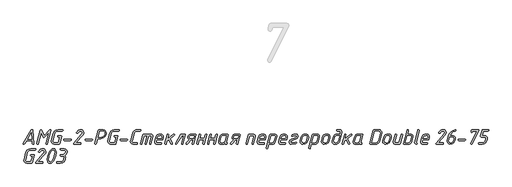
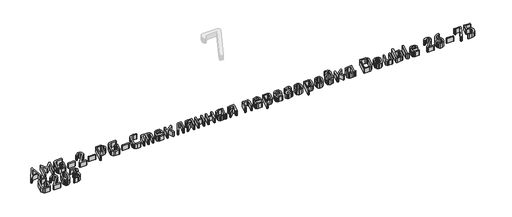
# One storey, part 16 of 22: 1 proxy.
"""IFC4 building model written with IfcOpenShell, lengths in millimetres."""

from ifc_helpers import new_model, si_unit, origin, origin_with_axes, place, context, project, spatial, polyline, outline, extrude, element, save

model = new_model("IFC4")

# Units and contexts
model_context = context("Model", 3, world=origin())
ifc_project = project(units=[si_unit("LENGTHUNIT", "METRE", prefix="MILLI")], contexts=[model_context])

# Site, building, storey
site = spatial("IfcSite", under=ifc_project)
building = spatial("IfcBuilding", under=site)
storey = spatial("IfcBuildingStorey", under=building, Name="Уровень 1", Elevation=0.0)

# Proxy
placement = place(None, origin())
element("IfcBuildingElementProxy", 1, Name="30", ObjectType="30", at=placement, inside=storey, context=model_context, shape_type="SweptSolid", body=[
    extrude(outline(polyline([(-27254.4219264, -25695.2113625), (-27310.5539274, -25695.2113625), (-27331.3287604, -25729.8494015), (-27337.7210168, -25733.5649005), (-27343.0345798, -25731.3276108), (-27345.1919664, -25726.0140477), (-27344.0733215, -25722.0188875), (-27261.4534084, -25586.2633437), (-27254.9812489, -25582.7076511), (-27249.6277342, -25584.4455458), (-27247.4703477, -25589.6592298), (-27237.0429795, -25726.2537573), (-27238.9406806, -25731.7371147), (-27244.6337839, -25733.5649005), (-27249.9573349, -25731.7970421), (-27252.0248303, -25726.493467), (-27254.4219264, -25695.2113625)]), holes=[polyline([(-27255.5405713, -25679.8699473), (-27260.6543764, -25613.3904815), (-27301.3251073, -25679.8699473), (-27255.5405713, -25679.8699473)])]), origin_with_axes(), (0.0, 0.0, 1.0), 50.0),
    extrude(outline(polyline([(-27159.3371135, -25613.3505299), (-27189.9000891, -25727.9716762), (-27192.4370158, -25732.1665945), (-27197.0913775, -25733.5649005), (-27202.3649889, -25731.3276108), (-27204.6821818, -25726.2537573), (-27204.362569, -25723.976516), (-27168.0865143, -25588.3008754), (-27165.5595755, -25584.1059572), (-27160.9351776, -25582.7076511), (-27153.9036956, -25587.2621337), (-27129.8128796, -25644.5527311), (-27073.0816046, -25585.1047472), (-27067.7680415, -25582.7076511), (-27062.1348656, -25584.5654006), (-27060.2571403, -25590.1386491), (-27060.49685, -25592.2960356), (-27096.732953, -25727.9716762), (-27099.3198193, -25732.1665945), (-27103.8842898, -25733.5649005), (-27109.1778771, -25731.3276108), (-27111.5150458, -25726.2537573), (-27111.1554814, -25723.976516), (-27082.5101827, -25616.6665129), (-27127.0961706, -25663.1701777), (-27132.4097337, -25665.4074674), (-27139.2414576, -25660.8929364), (-27159.3371135, -25613.3505299)])), origin_with_axes(), (0.0, 0.0, 1.0), 50.0),
    extrude(outline(polyline([(-26942.6795754, -25598.0490663), (-26991.3406268, -25598.0490663), (-27004.0052846, -25600.8356905), (-27014.512556, -25609.1955633), (-27020.5452479, -25620.5817699), (-27040.7607585, -25695.6907818), (-27041.5597906, -25701.2840061), (-27036.3860581, -25713.5491479), (-27023.5016664, -25718.2234853), (-26984.6287576, -25718.2234853), (-26968.4883104, -25659.4147271), (-26982.2316615, -25659.4147271), (-26987.8648374, -25657.4970502), (-26989.7425627, -25651.7440195), (-26987.8648374, -25645.9909888), (-26982.2316615, -25644.0733119), (-26956.782491, -25644.0733119), (-26952.3478631, -25645.4316663), (-26950.8696539, -25649.5067298), (-26950.9895087, -25651.5442615), (-26971.1251161, -25726.0939509), (-26974.6108934, -25731.6971631), (-26980.9931618, -25733.5649005), (-27027.5767298, -25733.5649005), (-27041.7995002, -25729.4199218), (-27052.8261424, -25716.9849857), (-27057.0210606, -25702.1229897), (-27056.2220285, -25695.8505882), (-27036.1263727, -25620.4219634), (-27026.1784238, -25599.6471304), (-27009.5186057, -25586.9425209), (-26987.2256117, -25582.7076511), (-26942.6795754, -25582.7076511), (-26937.0763632, -25584.625328), (-26935.2086258, -25590.3783587), (-26937.0763632, -25596.1313894), (-26942.6795754, -25598.0490663)])), origin_with_axes(), (0.0, 0.0, 1.0), 50.0),
    extrude(outline(polyline([(-26858.9809691, -25695.2113625), (-26921.0657587, -25695.2113625), (-26926.6689709, -25693.2936856), (-26928.5367083, -25687.5406549), (-26926.6689709, -25681.7876242), (-26921.0657587, -25679.8699473), (-26858.9809691, -25679.8699473), (-26853.3777569, -25681.7876242), (-26851.5100195, -25687.5406549), (-26853.3777569, -25693.2936856), (-26858.9809691, -25695.2113625)])), origin_with_axes(), (0.0, 0.0, 1.0), 50.0),
    extrude(outline(polyline([(-26784.9106988, -25617.8251093), (-26790.4639715, -25620.5418183), (-26795.7575588, -25618.2645769), (-26797.9748727, -25613.0309171), (-26796.137099, -25608.1568216), (-26776.8404752, -25589.5793266), (-26764.8749704, -25584.42557), (-26751.2714499, -25582.7076511), (-26736.3295507, -25586.3532348), (-26725.4627149, -25597.2899858), (-26721.2677967, -25612.4715946), (-26724.6936466, -25627.7430945), (-26734.9711962, -25642.7149574), (-26803.5281454, -25718.2234853), (-26758.5426415, -25718.2234853), (-26752.9094656, -25720.1411622), (-26751.0317403, -25725.8941929), (-26752.9094656, -25731.6472236), (-26758.5426415, -25733.5649005), (-26820.5874795, -25733.5649005), (-26826.1906917, -25731.6871752), (-26828.0584291, -25726.0539993), (-26826.1407522, -25720.9002427), (-26745.7980804, -25632.4873473), (-26738.906429, -25622.5693621), (-26736.6092119, -25613.1108203), (-26741.2935373, -25601.8145048), (-26755.3465133, -25598.0490663), (-26764.8050551, -25600.6359325), (-26775.9215884, -25608.3965312), (-26784.9106988, -25617.8251093)])), origin_with_axes(), (0.0, 0.0, 1.0), 50.0),
    extrude(outline(polyline([(-26639.0873512, -25695.2113625), (-26701.1721409, -25695.2113625), (-26706.7753531, -25693.2936856), (-26708.6430905, -25687.5406549), (-26706.7753531, -25681.7876242), (-26701.1721409, -25679.8699473), (-26639.0873512, -25679.8699473), (-26633.4841391, -25681.7876242), (-26631.6164017, -25687.5406549), (-26633.4841391, -25693.2936856), (-26639.0873512, -25695.2113625)])), origin_with_axes(), (0.0, 0.0, 1.0), 50.0),
    extrude(outline(polyline([(-26548.4771177, -25674.7561423), (-26579.5195126, -25674.7561423), (-26594.1417989, -25728.091531), (-26596.738653, -25732.1965582), (-26601.3330873, -25733.5649005), (-26606.6066988, -25731.3276108), (-26608.9238917, -25726.2537573), (-26608.6042789, -25723.976516), (-26572.9274982, -25590.2585039), (-26569.4716846, -25584.5953643), (-26563.0195009, -25582.7076511), (-26524.1465921, -25582.7076511), (-26507.0173427, -25587.731565), (-26493.8233261, -25602.8033069), (-26488.8293758, -25621.1810439), (-26489.7083111, -25628.7318967), (-26501.7437312, -25653.3620594), (-26522.1090604, -25669.162918), (-26548.4771177, -25674.7561423)]), holes=[polyline([(-26544.4020543, -25659.4147271), (-26527.9519822, -25655.5194459), (-26513.5993691, -25643.8336023), (-26506.6178267, -25632.7769964), (-26504.2906458, -25621.1810439), (-26507.2370765, -25609.3653576), (-26516.0763685, -25601.085388), (-26528.3814619, -25598.0490663), (-26559.3839051, -25598.0490663), (-26575.5243523, -25659.4147271), (-26544.4020543, -25659.4147271)])]), origin_with_axes(), (0.0, 0.0, 1.0), 50.0),
    extrude(outline(polyline([(-26362.2627005, -25598.0490663), (-26410.9237518, -25598.0490663), (-26423.5884096, -25600.8356905), (-26434.095681, -25609.1955633), (-26440.1283729, -25620.5817699), (-26460.3438836, -25695.6907818), (-26461.1429156, -25701.2840061), (-26455.9691831, -25713.5491479), (-26443.0847915, -25718.2234853), (-26404.2118826, -25718.2234853), (-26388.0714354, -25659.4147271), (-26401.8147865, -25659.4147271), (-26407.4479624, -25657.4970502), (-26409.3256877, -25651.7440195), (-26407.4479624, -25645.9909888), (-26401.8147865, -25644.0733119), (-26376.365616, -25644.0733119), (-26371.9309882, -25645.4316663), (-26370.4527789, -25649.5067298), (-26370.5726337, -25651.5442615), (-26390.7082411, -25726.0939509), (-26394.1940184, -25731.6971631), (-26400.5762868, -25733.5649005), (-26447.1598549, -25733.5649005), (-26461.3826252, -25729.4199218), (-26472.4092674, -25716.9849857), (-26476.6041856, -25702.1229897), (-26475.8051536, -25695.8505882), (-26455.7094977, -25620.4219634), (-26445.7615488, -25599.6471304), (-26429.1017307, -25586.9425209), (-26406.8087368, -25582.7076511), (-26362.2627005, -25582.7076511), (-26356.6594883, -25584.625328), (-26354.7917509, -25590.3783587), (-26356.6594883, -25596.1313894), (-26362.2627005, -25598.0490663)])), origin_with_axes(), (0.0, 0.0, 1.0), 50.0),
    extrude(outline(polyline([(-26278.5640941, -25695.2113625), (-26340.6488837, -25695.2113625), (-26346.2520959, -25693.2936856), (-26348.1198333, -25687.5406549), (-26346.2520959, -25681.7876242), (-26340.6488837, -25679.8699473), (-26278.5640941, -25679.8699473), (-26272.9608819, -25681.7876242), (-26271.0931445, -25687.5406549), (-26272.9608819, -25693.2936856), (-26278.5640941, -25695.2113625)])), origin_with_axes(), (0.0, 0.0, 1.0), 50.0),
    extrude(outline(polyline([(-26114.0433968, -25634.4050242), (-26111.4864942, -25630.1501786), (-26106.7722052, -25628.7318967), (-26034.8193698, -25628.7318967), (-26022.5941796, -25631.7382547), (-26014.12444, -25640.7573289), (-26011.0881182, -25652.6629063), (-26011.8871502, -25658.6955982), (-26030.5045968, -25728.0116278), (-26033.091463, -25732.1765824), (-26037.6559336, -25733.5649005), (-26042.9495209, -25731.3675624), (-26045.2866896, -25726.3336606), (-26044.9271252, -25724.0564192), (-26027.4283234, -25658.9752595), (-26026.6292914, -25653.4619384), (-26029.6756011, -25646.4204685), (-26038.81453, -25644.0733119), (-26054.3557032, -25644.0733119), (-26077.0881648, -25728.0116278), (-26079.6750311, -25732.1765824), (-26084.2395016, -25733.5649005), (-26089.5330889, -25731.3675624), (-26091.8702576, -25726.3336606), (-26091.5506448, -25724.0564192), (-26069.8169733, -25644.0733119), (-26100.9792229, -25644.0733119), (-26123.6717329, -25728.0116278), (-26126.268587, -25732.1765824), (-26130.8630212, -25733.5649005), (-26136.1366327, -25731.3475866), (-26138.4538256, -25726.293709), (-26138.1342128, -25724.0164676), (-26114.0433968, -25634.4050242)])), origin_with_axes(), (0.0, 0.0, 1.0), 50.0),
    extrude(outline(polyline([(-26178.7649921, -25718.2234853), (-26173.1318162, -25720.1411622), (-26171.2540909, -25725.8941929), (-26173.1318162, -25731.6472236), (-26178.7649921, -25733.5649005), (-26211.804967, -25733.5649005), (-26226.1575801, -25729.3899581), (-26237.1742344, -25716.8651309), (-26241.2492978, -25701.9232317), (-26240.4502657, -25695.8505882), (-26220.4744647, -25620.4219634), (-26213.6527286, -25603.9219518), (-26203.2153726, -25592.1362292), (-26189.1623966, -25585.0647956), (-26171.4938005, -25582.7076511), (-26142.6087922, -25582.7076511), (-26136.9756163, -25584.625328), (-26135.097891, -25590.3783587), (-26136.9756163, -25596.1313894), (-26142.6087922, -25598.0490663), (-26175.568864, -25598.0490663), (-26188.113667, -25600.8356905), (-26198.7407932, -25609.1955633), (-26204.8933399, -25620.5817699), (-26224.9889957, -25695.6907818), (-26225.7880278, -25701.2840061), (-26220.6142953, -25713.5491479), (-26207.7299036, -25718.2234853), (-26178.7649921, -25718.2234853)])), origin_with_axes(), (0.0, 0.0, 1.0), 50.0),
    extrude(outline(polyline([(-25904.2974858, -25665.4873706), (-25910.3301778, -25687.5406549), (-25972.3750158, -25687.5406549), (-25976.370176, -25702.8820701), (-25977.169208, -25708.4752944), (-25974.1228984, -25715.7864376), (-25964.9839694, -25718.2234853), (-25928.1885439, -25718.2234853), (-25922.555368, -25720.1411622), (-25920.6776427, -25725.8941929), (-25922.555368, -25731.6472236), (-25928.1885439, -25733.5649005), (-25968.9791296, -25733.5649005), (-25978.0381554, -25731.80703), (-25985.7188509, -25726.5334186), (-25990.9624987, -25718.8227594), (-25992.7103812, -25709.7537457), (-25991.9113492, -25703.601199), (-25981.9234487, -25666.1665478), (-25975.066755, -25648.9274315), (-25965.2037032, -25637.4013943), (-25951.4553582, -25630.8992711), (-25932.9427845, -25628.7318967), (-25921.4217413, -25630.804386), (-25911.8683144, -25637.0218541), (-25905.4411005, -25646.2756439), (-25903.2986958, -25657.4570986), (-25904.2974858, -25665.4873706)]), holes=[polyline([(-25919.8786107, -25665.1677578), (-25918.640111, -25657.3771954), (-25923.2345452, -25647.3992827), (-25937.0178479, -25644.0733119), (-25955.9549073, -25649.3469234), (-25962.217321, -25655.9389377), (-25966.3423239, -25665.1677578), (-25968.4198072, -25672.1992397), (-25921.7962876, -25672.1992397), (-25919.8786107, -25665.1677578)])]), origin_with_axes(), (0.0, 0.0, 1.0), 50.0),
    extrude(outline(polyline([(-25845.7284372, -25685.2634136), (-25865.824093, -25700.7246836), (-25873.0952846, -25728.0116278), (-25875.6322114, -25732.1765824), (-25880.286573, -25733.5649005), (-25885.5601845, -25731.3475866), (-25887.8773774, -25726.293709), (-25887.5577646, -25724.0164676), (-25863.4669485, -25634.2851694), (-25860.9400097, -25630.1202149), (-25856.3156118, -25628.7318967), (-25850.6824359, -25630.5796583), (-25848.8047106, -25636.1229431), (-25849.0044686, -25638.2803296), (-25859.3519335, -25676.9534804), (-25798.66545, -25631.2887992), (-25794.1509189, -25628.7318967), (-25788.8972832, -25631.009138), (-25786.5201629, -25636.1229431), (-25789.5964363, -25642.2355382), (-25833.5831502, -25675.9147387), (-25811.410011, -25722.777968), (-25810.610979, -25725.9740961), (-25812.8882203, -25731.2876592), (-25818.241735, -25733.5649005), (-25824.9136525, -25729.2501275), (-25845.7284372, -25685.2634136)])), origin_with_axes(), (0.0, 0.0, 1.0), 50.0),
    extrude(outline(polyline([(-25683.9644004, -25628.7318967), (-25678.3312245, -25630.5796583), (-25676.4534992, -25636.1229431), (-25676.6932088, -25638.2803296), (-25700.9038797, -25728.0116278), (-25703.4907459, -25732.1765824), (-25708.0552164, -25733.5649005), (-25713.3488037, -25731.3675624), (-25715.6859724, -25726.3336606), (-25715.326408, -25724.0564192), (-25693.7525429, -25644.0733119), (-25710.7719254, -25644.0733119), (-25763.8676045, -25730.0491595), (-25769.7404901, -25733.5649005), (-25775.673303, -25731.7770663), (-25777.7308105, -25726.4135638), (-25776.572214, -25722.2186455), (-25721.4789547, -25632.3674925), (-25714.9668436, -25628.7318967), (-25683.9644004, -25628.7318967)])), origin_with_axes(), (0.0, 0.0, 1.0), 50.0),
    extrude(outline(polyline([(-25614.129, -25687.5406549), (-25655.0394405, -25731.2477076), (-25660.3929552, -25733.5649005), (-25665.9861795, -25731.707151), (-25667.9837596, -25726.1339025), (-25665.8263731, -25720.5406783), (-25634.0248978, -25686.5019133), (-25646.2301122, -25678.0321736), (-25650.8445223, -25664.1290161), (-25650.165345, -25658.1362758), (-25644.6220602, -25644.4977976), (-25636.8614615, -25635.4637416), (-25625.97465, -25630.4148579), (-25611.0527266, -25628.7318967), (-25574.2573011, -25628.7318967), (-25568.9637138, -25630.8892832), (-25566.6265451, -25636.0030883), (-25566.9861095, -25638.2803296), (-25591.1568288, -25728.0116278), (-25593.7536829, -25732.1765824), (-25598.3481171, -25733.5649005), (-25603.9513293, -25731.6771873), (-25605.8190667, -25726.0140477), (-25605.6193087, -25723.8167096), (-25596.0708758, -25687.5406549), (-25614.129, -25687.5406549)]), holes=[polyline([(-25623.1181104, -25672.1992397), (-25592.0757156, -25672.1992397), (-25583.8856372, -25644.0733119), (-25615.0478868, -25644.0733119), (-25627.5427504, -25647.5890529), (-25634.8239298, -25658.1362758), (-25635.5031071, -25663.2500809), (-25632.4068579, -25669.96195), (-25623.1181104, -25672.1992397)])]), origin_with_axes(), (0.0, 0.0, 1.0), 50.0),
    extrude(outline(polyline([(-25486.1240669, -25687.5406549), (-25532.7076349, -25687.5406549), (-25543.2548579, -25727.8518214), (-25545.8217483, -25732.1366308), (-25550.5660011, -25733.5649005), (-25555.8196367, -25731.3475866), (-25558.1568055, -25726.293709), (-25557.8371926, -25724.0164676), (-25533.7463766, -25634.2851694), (-25531.2094499, -25630.1202149), (-25526.5550882, -25628.7318967), (-25521.2415251, -25630.80938), (-25518.9642838, -25635.8832335), (-25519.1640418, -25637.9607168), (-25528.7124747, -25672.1992397), (-25482.0090519, -25672.1992397), (-25471.4618289, -25634.125363), (-25468.9348901, -25630.0802632), (-25464.3104922, -25628.7318967), (-25458.6773163, -25630.5796583), (-25456.799591, -25636.1229431), (-25457.0393006, -25638.2803296), (-25481.1301167, -25728.0116278), (-25483.6570555, -25732.1765824), (-25488.2814534, -25733.5649005), (-25493.5550649, -25731.307635), (-25495.8722578, -25726.1339025), (-25495.552645, -25723.8167096), (-25486.1240669, -25687.5406549)])), origin_with_axes(), (0.0, 0.0, 1.0), 50.0),
    extrude(outline(polyline([(-25376.177258, -25687.5406549), (-25422.760826, -25687.5406549), (-25433.308049, -25727.8518214), (-25435.8749394, -25732.1366308), (-25440.6191921, -25733.5649005), (-25445.8728278, -25731.3475866), (-25448.2099965, -25726.293709), (-25447.8903837, -25724.0164676), (-25423.7995677, -25634.2851694), (-25421.2626409, -25630.1202149), (-25416.6082793, -25628.7318967), (-25411.2947162, -25630.80938), (-25409.0174749, -25635.8832335), (-25409.2172329, -25637.9607168), (-25418.7656658, -25672.1992397), (-25372.062243, -25672.1992397), (-25361.51502, -25634.125363), (-25358.9880812, -25630.0802632), (-25354.3636833, -25628.7318967), (-25348.7305074, -25630.5796583), (-25346.8527821, -25636.1229431), (-25347.0924917, -25638.2803296), (-25371.1833077, -25728.0116278), (-25373.7102466, -25732.1765824), (-25378.3346445, -25733.5649005), (-25383.608256, -25731.307635), (-25385.9254489, -25726.1339025), (-25385.6058361, -25723.8167096), (-25376.177258, -25687.5406549)])), origin_with_axes(), (0.0, 0.0, 1.0), 50.0),
    extrude(outline(polyline([(-25309.2982761, -25733.5649005), (-25318.3573019, -25731.8369937), (-25326.0379974, -25726.6532734), (-25331.2816452, -25719.0225174), (-25333.0295278, -25709.9535037), (-25332.2304957, -25703.601199), (-25320.2050635, -25658.6955982), (-25314.6418029, -25644.7924407), (-25306.5815672, -25635.523669), (-25295.7147314, -25630.4298398), (-25281.0924451, -25628.7318967), (-25242.2594878, -25628.7318967), (-25237.3654166, -25630.8693074), (-25236.4265539, -25636.2028463), (-25256.6820162, -25710.7525357), (-25257.001629, -25712.7900674), (-25255.5034439, -25716.8651309), (-25251.0088887, -25718.2234853), (-25245.8051925, -25720.1411622), (-25245.2159064, -25725.8941929), (-25248.5518652, -25731.6472236), (-25254.9640973, -25733.5649005), (-25265.0219131, -25731.3875382), (-25270.4253673, -25724.8554513), (-25279.5742842, -25731.3875382), (-25293.8370061, -25733.5649005), (-25309.2982761, -25733.5649005)]), holes=[polyline([(-25305.3031159, -25718.2234853), (-25289.7619427, -25718.2234853), (-25277.7564863, -25713.6690027), (-25270.0658029, -25703.401441), (-25254.0452104, -25644.0733119), (-25285.0876053, -25644.0733119), (-25297.8321663, -25647.778823), (-25304.7437935, -25658.8953562), (-25316.6893225, -25703.401441), (-25317.4883545, -25708.6750524), (-25314.4420449, -25715.8363771), (-25305.3031159, -25718.2234853)])]), origin_with_axes(), (0.0, 0.0, 1.0), 50.0),
    extrude(outline(polyline([(-25159.0003491, -25687.5406549), (-25199.9107896, -25731.2477076), (-25205.2643043, -25733.5649005), (-25210.8575286, -25731.707151), (-25212.8551087, -25726.1339025), (-25210.6977222, -25720.5406783), (-25178.8962469, -25686.5019133), (-25191.1014614, -25678.0321736), (-25195.7158714, -25664.1290161), (-25195.0366942, -25658.1362758), (-25189.4934094, -25644.4977976), (-25181.7328107, -25635.4637416), (-25170.8459991, -25630.4148579), (-25155.9240757, -25628.7318967), (-25119.1286502, -25628.7318967), (-25113.835063, -25630.8892832), (-25111.4978942, -25636.0030883), (-25111.8574587, -25638.2803296), (-25136.0281779, -25728.0116278), (-25138.625032, -25732.1765824), (-25143.2194663, -25733.5649005), (-25148.8226785, -25731.6771873), (-25150.6904159, -25726.0140477), (-25150.4906579, -25723.8167096), (-25140.942225, -25687.5406549), (-25159.0003491, -25687.5406549)]), holes=[polyline([(-25167.9894596, -25672.1992397), (-25136.9470648, -25672.1992397), (-25128.7569863, -25644.0733119), (-25159.919236, -25644.0733119), (-25172.4140995, -25647.5890529), (-25179.695279, -25658.1362758), (-25180.3744562, -25663.2500809), (-25177.2782071, -25669.96195), (-25167.9894596, -25672.1992397)])]), origin_with_axes(), (0.0, 0.0, 1.0), 50.0),
    extrude(outline(polyline([(-25027.3598203, -25634.4050242), (-25024.8029177, -25630.1501786), (-25020.0886287, -25628.7318967), (-24979.1781882, -25628.7318967), (-24969.8145314, -25630.4198519), (-24962.1787815, -25635.4837174), (-24957.0999341, -25643.1244613), (-24955.4069849, -25652.5430515), (-24956.206017, -25658.6955982), (-24974.8634151, -25728.0116278), (-24977.4303056, -25732.1765824), (-24982.0147519, -25733.5649005), (-24987.2883634, -25731.3675624), (-24989.6055563, -25726.3336606), (-24989.2859435, -25724.0564192), (-24971.7871418, -25658.9752595), (-24970.9881097, -25653.5817932), (-24974.0244315, -25646.4504322), (-24983.1333968, -25644.0733119), (-25014.2956464, -25644.0733119), (-25036.9881564, -25728.0116278), (-25039.5850105, -25732.1765824), (-25044.1794447, -25733.5649005), (-25049.4530562, -25731.3475866), (-25051.7702491, -25726.293709), (-25051.4506363, -25724.0164676), (-25027.3598203, -25634.4050242)])), origin_with_axes(), (0.0, 0.0, 1.0), 50.0),
    extrude(outline(polyline([(-24848.2967398, -25665.4873706), (-24854.3294317, -25687.5406549), (-24916.3742697, -25687.5406549), (-24920.3694299, -25702.8820701), (-24921.1684619, -25708.4752944), (-24918.1221523, -25715.7864376), (-24908.9832233, -25718.2234853), (-24872.1877978, -25718.2234853), (-24866.5546219, -25720.1411622), (-24864.6768966, -25725.8941929), (-24866.5546219, -25731.6472236), (-24872.1877978, -25733.5649005), (-24912.9783835, -25733.5649005), (-24922.0374093, -25731.80703), (-24929.7181048, -25726.5334186), (-24934.9617526, -25718.8227594), (-24936.7096351, -25709.7537457), (-24935.9106031, -25703.601199), (-24925.9227026, -25666.1665478), (-24919.0660089, -25648.9274315), (-24909.2029571, -25637.4013943), (-24895.4546121, -25630.8992711), (-24876.9420384, -25628.7318967), (-24865.4209952, -25630.804386), (-24855.8675683, -25637.0218541), (-24849.4403544, -25646.2756439), (-24847.2979497, -25657.4570986), (-24848.2967398, -25665.4873706)]), holes=[polyline([(-24863.8778646, -25665.1677578), (-24862.6393649, -25657.3771954), (-24867.2337991, -25647.3992827), (-24881.0171019, -25644.0733119), (-24899.9541612, -25649.3469234), (-24906.2165749, -25655.9389377), (-24910.3415778, -25665.1677578), (-24912.4190611, -25672.1992397), (-24865.7955415, -25672.1992397), (-24863.8778646, -25665.1677578)])]), origin_with_axes(), (0.0, 0.0, 1.0), 50.0),
    extrude(outline(polyline([(-24807.4662024, -25634.4449758), (-24804.9092999, -25630.1601665), (-24800.1950109, -25628.7318967), (-24759.2845703, -25628.7318967), (-24750.1206716, -25630.4747853), (-24742.44497, -25635.7034512), (-24737.2462678, -25643.3991286), (-24735.5133671, -25652.5430515), (-24736.3123991, -25658.6955982), (-24748.377783, -25703.601199), (-24753.9260617, -25717.4344412), (-24761.9413519, -25726.6532734), (-24772.972988, -25731.8369937), (-24787.5703046, -25733.5649005), (-24818.5727478, -25733.5649005), (-24829.1599224, -25773.876067), (-24831.6868612, -25778.1608763), (-24836.3112591, -25779.5891461), (-24841.6048464, -25777.3518564), (-24843.9420151, -25772.2780029), (-24843.5824507, -25770.0007616), (-24807.4662024, -25634.4449758)]), holes=[polyline([(-24794.4020286, -25644.0733119), (-24814.6175392, -25718.2234853), (-24783.4952412, -25718.2234853), (-24770.7207164, -25714.5179742), (-24763.7991014, -25703.401441), (-24751.8935239, -25658.8953562), (-24751.0944919, -25653.50189), (-24754.1308137, -25646.4304564), (-24763.2397789, -25644.0733119), (-24794.4020286, -25644.0733119)])]), origin_with_axes(), (0.0, 0.0, 1.0), 50.0),
    extrude(outline(polyline([(-24628.4031219, -25665.4873706), (-24634.4358138, -25687.5406549), (-24696.4806519, -25687.5406549), (-24700.4758121, -25702.8820701), (-24701.2748441, -25708.4752944), (-24698.2285345, -25715.7864376), (-24689.0896055, -25718.2234853), (-24652.29418, -25718.2234853), (-24646.6610041, -25720.1411622), (-24644.7832788, -25725.8941929), (-24646.6610041, -25731.6472236), (-24652.29418, -25733.5649005), (-24693.0847657, -25733.5649005), (-24702.1437915, -25731.80703), (-24709.824487, -25726.5334186), (-24715.0681347, -25718.8227594), (-24716.8160173, -25709.7537457), (-24716.0169853, -25703.601199), (-24706.0290848, -25666.1665478), (-24699.1723911, -25648.9274315), (-24689.3093393, -25637.4013943), (-24675.5609942, -25630.8992711), (-24657.0484206, -25628.7318967), (-24645.5273774, -25630.804386), (-24635.9739505, -25637.0218541), (-24629.5467365, -25646.2756439), (-24627.4043319, -25657.4570986), (-24628.4031219, -25665.4873706)]), holes=[polyline([(-24643.9842467, -25665.1677578), (-24642.7457471, -25657.3771954), (-24647.3401813, -25647.3992827), (-24661.123484, -25644.0733119), (-24680.0605434, -25649.3469234), (-24686.322957, -25655.9389377), (-24690.4479599, -25665.1677578), (-24692.5254433, -25672.1992397), (-24645.9019236, -25672.1992397), (-24643.9842467, -25665.1677578)])]), origin_with_axes(), (0.0, 0.0, 1.0), 50.0),
    extrude(outline(polyline([(-24555.8510125, -25730.6484336), (-24586.9733106, -25733.5649005), (-24594.9037036, -25731.9668364), (-24601.5955969, -25727.1726442), (-24606.1500796, -25720.261017), (-24607.6682404, -25712.3106482), (-24605.9702974, -25703.1517434), (-24600.8764681, -25694.3723789), (-24585.2953433, -25682.7065111), (-24539.9502749, -25664.9679998), (-24532.6990591, -25659.7742915), (-24530.2819872, -25651.6241647), (-24532.5891922, -25645.9610251), (-24539.5108073, -25644.0733119), (-24557.4191129, -25645.6913518), (-24570.9527181, -25650.5454714), (-24574.5883139, -25651.5842131), (-24579.8819012, -25649.3069717), (-24582.0992151, -25644.0733119), (-24578.3437645, -25637.4413459), (-24560.3056162, -25630.909259), (-24535.5156471, -25628.7318967), (-24525.4078918, -25631.4985451), (-24517.7771358, -25639.7984905), (-24514.8207172, -25650.3057618), (-24517.2677528, -25660.823021), (-24524.6088597, -25671.1205465), (-24536.9938564, -25679.3505765), (-24582.3389247, -25696.969233), (-24589.6500679, -25702.2528324), (-24592.0871156, -25710.4329229), (-24589.8198622, -25716.2758447), (-24583.018102, -25718.2234853), (-24561.424261, -25716.4855906), (-24541.8679518, -25711.2719066), (-24539.1512429, -25710.7125841), (-24533.518067, -25712.5903094), (-24531.6403417, -25718.2234853), (-24534.0873773, -25723.477121), (-24541.4284842, -25727.4123538), (-24555.8510125, -25730.6484336)])), origin_with_axes(), (0.0, 0.0, 1.0), 50.0),
    extrude(outline(polyline([(-24494.0858357, -25696.1302494), (-24486.1354669, -25666.1665478), (-24479.2787732, -25648.9274315), (-24469.4157215, -25637.4013943), (-24455.6673764, -25630.8992711), (-24437.1548028, -25628.7318967), (-24425.6337595, -25630.8443376), (-24416.0803327, -25637.1816605), (-24409.6531187, -25646.6152326), (-24407.510714, -25658.016421), (-24408.5095041, -25666.1665478), (-24416.4598729, -25696.1302494), (-24426.3678702, -25717.6641629), (-24441.9889466, -25729.5897161), (-24465.440537, -25733.5649005), (-24476.9665742, -25731.4524596), (-24486.5349829, -25725.1151367), (-24492.9771788, -25715.6815646), (-24495.1245774, -25704.2803762), (-24494.0858357, -25696.1302494)]), holes=[polyline([(-24432.0409977, -25695.970443), (-24424.0906289, -25666.3263542), (-24422.8521292, -25658.016421), (-24427.4465635, -25647.5590892), (-24441.2298662, -25644.0733119), (-24451.8120468, -25645.464127), (-24460.226853, -25649.6365725), (-24466.4742848, -25656.5906482), (-24470.5543421, -25666.3263542), (-24478.6245657, -25695.970443), (-24479.903017, -25704.2803762), (-24475.2985949, -25714.737708), (-24461.4853284, -25718.2234853), (-24450.8656932, -25716.8326702), (-24442.4184264, -25712.6602247), (-24436.1435279, -25705.706149), (-24432.0409977, -25695.970443)])]), origin_with_axes(), (0.0, 0.0, 1.0), 50.0),
    extrude(outline(polyline([(-24367.6789668, -25634.4449758), (-24365.1220642, -25630.1601665), (-24360.4077752, -25628.7318967), (-24319.4973347, -25628.7318967), (-24310.3334359, -25630.4747853), (-24302.6577344, -25635.7034512), (-24297.4590322, -25643.3991286), (-24295.7261314, -25652.5430515), (-24296.5251635, -25658.6955982), (-24308.5905473, -25703.601199), (-24314.138826, -25717.4344412), (-24322.1541162, -25726.6532734), (-24333.1857523, -25731.8369937), (-24347.7830689, -25733.5649005), (-24378.7855121, -25733.5649005), (-24389.3726867, -25773.876067), (-24391.8996255, -25778.1608763), (-24396.5240235, -25779.5891461), (-24401.8176107, -25777.3518564), (-24404.1547795, -25772.2780029), (-24403.795215, -25770.0007616), (-24367.6789668, -25634.4449758)]), holes=[polyline([(-24354.6147929, -25644.0733119), (-24374.8303035, -25718.2234853), (-24343.7080055, -25718.2234853), (-24330.9334808, -25714.5179742), (-24324.0118657, -25703.401441), (-24312.1062883, -25658.8953562), (-24311.3072562, -25653.50189), (-24314.343578, -25646.4304564), (-24323.4525433, -25644.0733119), (-24354.6147929, -25644.0733119)])]), origin_with_axes(), (0.0, 0.0, 1.0), 50.0),
    extrude(outline(polyline([(-24274.1922179, -25696.1302494), (-24266.2418491, -25666.1665478), (-24259.3851554, -25648.9274315), (-24249.5221036, -25637.4013943), (-24235.7737586, -25630.8992711), (-24217.2611849, -25628.7318967), (-24205.7401417, -25630.8443376), (-24196.1867149, -25637.1816605), (-24189.7595009, -25646.6152326), (-24187.6170962, -25658.016421), (-24188.6158863, -25666.1665478), (-24196.5662551, -25696.1302494), (-24206.4742524, -25717.6641629), (-24222.0953288, -25729.5897161), (-24245.5469192, -25733.5649005), (-24257.0729564, -25731.4524596), (-24266.6413651, -25725.1151367), (-24273.0835609, -25715.6815646), (-24275.2309596, -25704.2803762), (-24274.1922179, -25696.1302494)]), holes=[polyline([(-24212.1473799, -25695.970443), (-24204.1970111, -25666.3263542), (-24202.9585114, -25658.016421), (-24207.5529456, -25647.5590892), (-24221.3362484, -25644.0733119), (-24231.918429, -25645.464127), (-24240.3332351, -25649.6365725), (-24246.5806669, -25656.5906482), (-24250.6607243, -25666.3263542), (-24258.7309479, -25695.970443), (-24260.0093992, -25704.2803762), (-24255.404977, -25714.737708), (-24241.5917106, -25718.2234853), (-24230.9720754, -25716.8326702), (-24222.5248085, -25712.6602247), (-24216.24991, -25705.706149), (-24212.1473799, -25695.970443)])]), origin_with_axes(), (0.0, 0.0, 1.0), 50.0),
    extrude(outline(polyline([(-24064.6061134, -25612.8711107), (-24086.6194462, -25695.8505882), (-24093.6059826, -25713.2744806), (-24103.6188528, -25724.8754271), (-24117.3771858, -25731.3925322), (-24135.6001103, -25733.5649005), (-24147.1261475, -25731.4524596), (-24156.6945562, -25725.1151367), (-24163.136752, -25715.6815646), (-24165.2841506, -25704.2803762), (-24164.245409, -25696.1302494), (-24156.2950402, -25666.1665478), (-24149.4383465, -25648.9274315), (-24139.5752947, -25637.4013943), (-24125.8269496, -25630.8992711), (-24107.314376, -25628.7318967), (-24084.022592, -25628.7318967), (-24080.0274318, -25613.3904815), (-24079.2683514, -25607.7972572), (-24082.3346368, -25600.486114), (-24091.5334932, -25598.0490663), (-24112.7877455, -25598.0490663), (-24118.3909577, -25596.1313894), (-24120.2586951, -25590.3783587), (-24118.3909577, -25584.625328), (-24112.7877455, -25582.7076511), (-24087.538333, -25582.7076511), (-24078.404398, -25584.4655216), (-24070.7386843, -25589.7391331), (-24065.5399821, -25597.4997318), (-24063.8070814, -25606.7185639), (-24064.6061134, -25612.8711107)]), holes=[polyline([(-24102.200571, -25695.970443), (-24088.0976554, -25644.0733119), (-24111.3894394, -25644.0733119), (-24121.97162, -25645.464127), (-24130.3864262, -25649.6365725), (-24136.633858, -25656.5906482), (-24140.7139154, -25666.3263542), (-24148.784139, -25695.970443), (-24150.0625903, -25704.2803762), (-24145.4581681, -25714.737708), (-24131.6449017, -25718.2234853), (-24121.0252665, -25716.8326702), (-24112.5779996, -25712.6602247), (-24106.3031011, -25705.706149), (-24102.200571, -25695.970443)])]), origin_with_axes(), (0.0, 0.0, 1.0), 50.0),
    extrude(outline(polyline([(-24020.1000287, -25685.2634136), (-24040.1956845, -25700.7246836), (-24047.4668761, -25728.0116278), (-24050.0038029, -25732.1765824), (-24054.6581645, -25733.5649005), (-24059.931776, -25731.3475866), (-24062.2489689, -25726.293709), (-24061.9293561, -25724.0164676), (-24037.83854, -25634.2851694), (-24035.3116012, -25630.1202149), (-24030.6872032, -25628.7318967), (-24025.0540274, -25630.5796583), (-24023.1763021, -25636.1229431), (-24023.3760601, -25638.2803296), (-24033.723525, -25676.9534804), (-23973.0370415, -25631.2887992), (-23968.5225104, -25628.7318967), (-23963.2688747, -25631.009138), (-23960.8917544, -25636.1229431), (-23963.9680278, -25642.2355382), (-24007.9547417, -25675.9147387), (-23985.7816025, -25722.777968), (-23984.9825705, -25725.9740961), (-23987.2598118, -25731.2876592), (-23992.6133265, -25733.5649005), (-23999.285244, -25729.2501275), (-24020.1000287, -25685.2634136)])), origin_with_axes(), (0.0, 0.0, 1.0), 50.0),
    extrude(outline(polyline([(-23923.4571033, -25733.5649005), (-23932.516129, -25731.8369937), (-23940.1968245, -25726.6532734), (-23945.4404723, -25719.0225174), (-23947.1883549, -25709.9535037), (-23946.3893229, -25703.601199), (-23934.3638906, -25658.6955982), (-23928.8006301, -25644.7924407), (-23920.7403943, -25635.523669), (-23909.8735586, -25630.4298398), (-23895.2512722, -25628.7318967), (-23856.418315, -25628.7318967), (-23851.5242437, -25630.8693074), (-23850.5853811, -25636.2028463), (-23870.8408433, -25710.7525357), (-23871.1604562, -25712.7900674), (-23869.6622711, -25716.8651309), (-23865.1677158, -25718.2234853), (-23859.9640197, -25720.1411622), (-23859.3747335, -25725.8941929), (-23862.7106923, -25731.6472236), (-23869.1229244, -25733.5649005), (-23879.1807403, -25731.3875382), (-23884.5841945, -25724.8554513), (-23893.7331113, -25731.3875382), (-23907.9958333, -25733.5649005), (-23923.4571033, -25733.5649005)]), holes=[polyline([(-23919.4619431, -25718.2234853), (-23903.9207699, -25718.2234853), (-23891.9153134, -25713.6690027), (-23884.22463, -25703.401441), (-23868.2040376, -25644.0733119), (-23899.2464324, -25644.0733119), (-23911.9909935, -25647.778823), (-23918.9026206, -25658.8953562), (-23930.8481497, -25703.401441), (-23931.6471817, -25708.6750524), (-23928.600872, -25715.8363771), (-23919.4619431, -25718.2234853)])]), origin_with_axes(), (0.0, 0.0, 1.0), 50.0),
    extrude(outline(polyline([(-23739.8794917, -25590.2585039), (-23736.4236782, -25584.5953643), (-23729.9714944, -25582.7076511), (-23683.3879264, -25582.7076511), (-23672.3762661, -25585.1946383), (-23662.7529239, -25592.6556), (-23656.0560366, -25603.0829681), (-23653.8237409, -25614.4691747), (-23654.6227729, -25620.4219634), (-23674.7583803, -25695.8505882), (-23681.6100801, -25712.3505998), (-23692.057424, -25724.1363224), (-23706.1004122, -25731.207756), (-23723.7390445, -25733.5649005), (-23770.3226125, -25733.5649005), (-23775.3165628, -25731.3276108), (-23776.1155948, -25726.0140477), (-23739.8794917, -25590.2585039)]), holes=[polyline([(-23726.3358986, -25598.0490663), (-23758.4969383, -25718.2234853), (-23719.7438843, -25718.2234853), (-23710.3502638, -25716.5854696), (-23701.5059779, -25711.6714226), (-23694.4195625, -25704.400231), (-23690.2995536, -25695.6907818), (-23670.2038977, -25620.5817699), (-23669.4048657, -25614.9885456), (-23674.5785981, -25602.7234037), (-23687.4629898, -25598.0490663), (-23726.3358986, -25598.0490663)])]), origin_with_axes(), (0.0, 0.0, 1.0), 50.0),
    extrude(outline(polyline([(-23642.6372923, -25696.1302494), (-23634.6869235, -25666.1665478), (-23627.8302298, -25648.9274315), (-23617.967178, -25637.4013943), (-23604.2188329, -25630.8992711), (-23585.7062593, -25628.7318967), (-23568.8566711, -25633.216464), (-23558.3394119, -25646.670166), (-23556.0621706, -25658.016421), (-23557.0609606, -25666.1665478), (-23565.0113294, -25696.1302494), (-23574.9193268, -25717.7141024), (-23590.5004516, -25729.8094499), (-23613.9919936, -25733.5649005), (-23625.5180308, -25731.4524596), (-23635.0864395, -25725.1151367), (-23641.5286353, -25715.6815646), (-23643.6760339, -25704.2803762), (-23642.6372923, -25696.1302494)]), holes=[polyline([(-23580.5924543, -25695.970443), (-23572.6420854, -25666.3263542), (-23571.4035858, -25658.016421), (-23575.99802, -25647.5590892), (-23589.7813227, -25644.0733119), (-23600.3635033, -25645.464127), (-23608.7783095, -25649.6365725), (-23615.0257413, -25656.5906482), (-23619.1057987, -25666.3263542), (-23627.1760223, -25695.970443), (-23628.4544735, -25704.2803762), (-23623.8500514, -25714.737708), (-23610.036785, -25718.2234853), (-23599.4171498, -25716.8326702), (-23590.9698829, -25712.6602247), (-23584.6949844, -25705.706149), (-23580.5924543, -25695.970443)])]), origin_with_axes(), (0.0, 0.0, 1.0), 50.0),
    extrude(outline(polyline([(-23454.0657305, -25634.2851694), (-23451.5387916, -25630.1202149), (-23446.9143937, -25628.7318967), (-23441.2812178, -25630.5796583), (-23439.4034925, -25636.1229431), (-23439.6432021, -25638.2803296), (-23463.3744538, -25726.0939509), (-23466.8402552, -25731.6971631), (-23473.1625963, -25733.5649005), (-23511.9156503, -25733.5649005), (-23520.9746761, -25731.80703), (-23528.6553716, -25726.5334186), (-23533.8990193, -25718.8227594), (-23535.6469019, -25709.7537457), (-23534.8478699, -25703.601199), (-23516.3502781, -25634.2851694), (-23513.7933756, -25630.1202149), (-23509.0790865, -25628.7318967), (-23503.4459106, -25630.5696704), (-23501.5681853, -25636.0829915), (-23501.7679434, -25638.240378), (-23519.3066967, -25703.3215378), (-23520.0657771, -25708.715004), (-23517.0294553, -25715.846365), (-23507.9204901, -25718.2234853), (-23476.7981921, -25718.2234853), (-23454.0657305, -25634.2851694)])), origin_with_axes(), (0.0, 0.0, 1.0), 50.0),
    extrude(outline(polyline([(-23423.1032389, -25733.5649005), (-23428.3568745, -25731.2876592), (-23430.5741885, -25726.0140477), (-23430.3744304, -25724.0963708), (-23394.0983758, -25588.3008754), (-23391.5714369, -25584.1059572), (-23386.947039, -25582.7076511), (-23381.3138631, -25584.5953643), (-23379.4361378, -25590.2585039), (-23379.6758474, -25592.455842), (-23389.1044255, -25628.7318967), (-23358.1019823, -25628.7318967), (-23348.9380836, -25630.4747853), (-23341.262382, -25635.7034512), (-23336.0636798, -25643.3991286), (-23334.330779, -25652.5430515), (-23335.1298111, -25658.6955982), (-23347.2750981, -25703.601199), (-23352.8483466, -25717.5592899), (-23360.6988364, -25726.7531524), (-23371.585648, -25731.8619635), (-23386.2678617, -25733.5649005), (-23423.1032389, -25733.5649005)]), holes=[polyline([(-23362.0571909, -25644.0733119), (-23393.2194405, -25644.0733119), (-23413.3150964, -25718.2234853), (-23382.1927983, -25718.2234853), (-23369.5680921, -25714.5179742), (-23362.6165133, -25703.401441), (-23350.5910811, -25658.8953562), (-23349.7920491, -25653.50189), (-23352.8583345, -25646.4304564), (-23362.0571909, -25644.0733119)])]), origin_with_axes(), (0.0, 0.0, 1.0), 50.0),
    extrude(outline(polyline([(-23297.6951599, -25718.4631949), (-23292.0619841, -25720.3509081), (-23290.1842588, -25726.0140477), (-23292.0619841, -25731.6771873), (-23297.6951599, -25733.5649005), (-23311.7181723, -25728.3711923), (-23316.1827638, -25722.5582342), (-23317.670961, -25715.5067764), (-23316.9917837, -25710.9522938), (-23284.2714216, -25588.3008754), (-23281.7145191, -25584.1059572), (-23277.0002301, -25582.7076511), (-23271.3670542, -25584.5654006), (-23269.4893289, -25590.1386491), (-23269.7290385, -25592.2960356), (-23301.4506105, -25710.9522938), (-23302.009933, -25714.3481799), (-23297.6951599, -25718.4631949)])), origin_with_axes(), (0.0, 0.0, 1.0), 50.0),
    extrude(outline(polyline([(-23165.8548731, -25665.4873706), (-23171.887565, -25687.5406549), (-23233.932403, -25687.5406549), (-23237.9275632, -25702.8820701), (-23238.7265953, -25708.4752944), (-23235.6802856, -25715.7864376), (-23226.5413566, -25718.2234853), (-23189.7459311, -25718.2234853), (-23184.1127552, -25720.1411622), (-23182.2350299, -25725.8941929), (-23184.1127552, -25731.6472236), (-23189.7459311, -25733.5649005), (-23230.5365169, -25733.5649005), (-23239.5955426, -25731.80703), (-23247.2762381, -25726.5334186), (-23252.5198859, -25718.8227594), (-23254.2677685, -25709.7537457), (-23253.4687364, -25703.601199), (-23243.4808359, -25666.1665478), (-23236.6241422, -25648.877492), (-23226.7610905, -25637.3614427), (-23213.0127454, -25630.8892832), (-23194.5001718, -25628.7318967), (-23177.6505836, -25633.1265729), (-23167.1333244, -25646.3106016), (-23164.856083, -25657.4570986), (-23165.8548731, -25665.4873706)]), holes=[polyline([(-23181.4359979, -25665.1677578), (-23180.1974982, -25657.3771954), (-23184.7919325, -25647.3992827), (-23198.5752352, -25644.0733119), (-23217.5122946, -25649.3469234), (-23223.7747082, -25655.9389377), (-23227.8997111, -25665.1677578), (-23229.9771944, -25672.1992397), (-23183.3536748, -25672.1992397), (-23181.4359979, -25665.1677578)])]), origin_with_axes(), (0.0, 0.0, 1.0), 50.0),
    extrude(outline(polyline([(-23054.3899033, -25617.8251093), (-23059.943176, -25620.5418183), (-23065.2367633, -25618.2645769), (-23067.4540772, -25613.0309171), (-23065.6163035, -25608.1568216), (-23046.3196797, -25589.5793266), (-23034.3541749, -25584.42557), (-23020.7506543, -25582.7076511), (-23005.8087552, -25586.3532348), (-22994.9419194, -25597.2899858), (-22990.7470012, -25612.4715946), (-22994.1728511, -25627.7430945), (-23004.4504007, -25642.7149574), (-23073.0073499, -25718.2234853), (-23028.0218459, -25718.2234853), (-23022.38867, -25720.1411622), (-23020.5109447, -25725.8941929), (-23022.38867, -25731.6472236), (-23028.0218459, -25733.5649005), (-23090.066684, -25733.5649005), (-23095.6698961, -25731.6871752), (-23097.5376335, -25726.0539993), (-23095.6199566, -25720.9002427), (-23015.2772849, -25632.4873473), (-23008.3856335, -25622.5693621), (-23006.0884164, -25613.1108203), (-23010.7727417, -25601.8145048), (-23024.8257178, -25598.0490663), (-23034.2842596, -25600.6359325), (-23045.4007928, -25608.3965312), (-23054.3899033, -25617.8251093)])), origin_with_axes(), (0.0, 0.0, 1.0), 50.0),
    extrude(outline(polyline([(-22951.8740924, -25733.5649005), (-22966.166778, -25729.4199218), (-22977.2433597, -25716.9849857), (-22981.3184231, -25702.0830381), (-22980.5193911, -25696.0103946), (-22968.4540072, -25650.4655682), (-22959.5248242, -25627.293639), (-22946.0811101, -25608.3565796), (-22925.705793, -25592.4358662), (-22900.0568645, -25582.7076511), (-22898.1391876, -25582.7076511), (-22892.5060117, -25584.625328), (-22890.6282864, -25590.3783587), (-22891.8767739, -25595.4322363), (-22895.6222366, -25597.5696471), (-22920.8716492, -25607.2379348), (-22939.5390352, -25623.5381884), (-22950.0762703, -25644.0733119), (-22927.6634215, -25644.0733119), (-22915.8377473, -25646.1058496), (-22906.2493628, -25652.2034629), (-22899.8970581, -25661.527168), (-22897.7796232, -25673.2379814), (-22898.8183648, -25681.3481566), (-22902.8934282, -25696.2900558), (-22912.8313892, -25717.6941266), (-22928.3425987, -25729.7295467), (-22951.8740924, -25733.5649005)]), holes=[polyline([(-22947.9188838, -25718.2234853), (-22937.3441941, -25716.8451551), (-22928.9119091, -25712.7101642), (-22922.6220287, -25705.8185129), (-22918.474553, -25696.170201), (-22914.3994896, -25681.4680114), (-22913.1210384, -25673.2379814), (-22917.7853879, -25662.8705407), (-22931.7784365, -25659.4147271), (-22955.0702205, -25659.4147271), (-22965.0581211, -25696.170201), (-22965.9770079, -25701.6435705), (-22960.8032754, -25713.6490269), (-22947.9188838, -25718.2234853)])]), origin_with_axes(), (0.0, 0.0, 1.0), 50.0),
    extrude(outline(polyline([(-22798.6197468, -25695.2113625), (-22860.7045364, -25695.2113625), (-22866.3077486, -25693.2936856), (-22868.175486, -25687.5406549), (-22866.3077486, -25681.7876242), (-22860.7045364, -25679.8699473), (-22798.6197468, -25679.8699473), (-22793.0165346, -25681.7876242), (-22791.1487972, -25687.5406549), (-22793.0165346, -25693.2936856), (-22798.6197468, -25695.2113625)])), origin_with_axes(), (0.0, 0.0, 1.0), 50.0),
    extrude(outline(polyline([(-22674.609974, -25598.5684371), (-22718.476833, -25598.5684371), (-22720.3945099, -25606.9582735), (-22723.600626, -25612.4516188), (-22729.3836204, -25613.4304331), (-22734.4075344, -25609.6949583), (-22734.9368931, -25603.202823), (-22732.2201841, -25591.0575359), (-22729.6033542, -25585.42436), (-22724.709283, -25583.5466347), (-22662.6644449, -25583.5466347), (-22657.031269, -25585.42436), (-22655.1535437, -25591.0575359), (-22655.832721, -25594.4534221), (-22723.1112189, -25729.4898371), (-22727.5458467, -25733.2053361), (-22733.538587, -25733.1254329), (-22736.9744248, -25728.3312407), (-22736.5349572, -25722.777968), (-22674.609974, -25598.5684371)])), origin_with_axes(), (0.0, 0.0, 1.0), 50.0),
    extrude(outline(polyline([(-22621.9138108, -25733.5649005), (-22650.9186739, -25733.5649005), (-22656.5218861, -25731.6472236), (-22658.3896235, -25725.8941929), (-22656.5218861, -25720.1411622), (-22650.9186739, -25718.2234853), (-22617.9586022, -25718.2234853), (-22607.3839125, -25716.8451551), (-22598.9516275, -25712.7101642), (-22592.6617472, -25705.8185129), (-22588.5142715, -25696.170201), (-22584.4392081, -25681.4680114), (-22583.1607568, -25673.2379814), (-22587.8251063, -25662.8705407), (-22601.818155, -25659.4147271), (-22630.7830665, -25659.4147271), (-22636.0766537, -25657.0975342), (-22638.2939677, -25651.7440195), (-22638.0542581, -25649.786391), (-22622.0336656, -25588.5006334), (-22619.4767631, -25584.1558967), (-22614.762474, -25582.7076511), (-22560.4682468, -25582.7076511), (-22554.8350709, -25584.625328), (-22552.9573456, -25590.3783587), (-22554.8350709, -25596.1313894), (-22560.4682468, -25598.0490663), (-22608.9694917, -25598.0490663), (-22621.0348756, -25644.0733119), (-22597.70314, -25644.0733119), (-22585.8175383, -25646.0908678), (-22576.2890812, -25652.1435355), (-22570.0266676, -25661.4522588), (-22567.9391964, -25673.2379814), (-22568.9779381, -25681.3481566), (-22573.0530015, -25696.2900558), (-22583.0309141, -25717.754054), (-22598.4222688, -25729.7295467), (-22621.9138108, -25733.5649005)])), origin_with_axes(), (0.0, 0.0, 1.0), 50.0),
    extrude(outline(polyline([(-27223.9388541, -25794.0733119), (-27272.5999054, -25794.0733119), (-27285.2645632, -25796.8599361), (-27295.7718346, -25805.2198089), (-27301.8045265, -25816.6060154), (-27322.0200371, -25891.7150274), (-27322.8190692, -25897.3082516), (-27317.6453367, -25909.5733935), (-27304.7609451, -25914.2477309), (-27265.8880362, -25914.2477309), (-27249.747589, -25855.4389727), (-27263.4909401, -25855.4389727), (-27269.124116, -25853.5212958), (-27271.0018413, -25847.7682651), (-27269.124116, -25842.0152344), (-27263.4909401, -25840.0975575), (-27238.0417696, -25840.0975575), (-27233.6071418, -25841.4559119), (-27232.1289325, -25845.5309754), (-27232.2487873, -25847.5685071), (-27252.3843947, -25922.1181965), (-27255.870172, -25927.7214087), (-27262.2524404, -25929.5891461), (-27308.8360085, -25929.5891461), (-27323.0587788, -25925.4441674), (-27334.085421, -25913.0092313), (-27338.2803392, -25898.1472353), (-27337.4813072, -25891.8748338), (-27317.3856513, -25816.446209), (-27307.4377024, -25795.671376), (-27290.7778843, -25782.9667665), (-27268.4848904, -25778.7318967), (-27223.9388541, -25778.7318967), (-27218.3356419, -25780.6495736), (-27216.4679045, -25786.4026043), (-27218.3356419, -25792.155635), (-27223.9388541, -25794.0733119)])), origin_with_axes(), (0.0, 0.0, 1.0), 50.0),
    extrude(outline(polyline([(-27176.1167864, -25813.8493549), (-27181.6700591, -25816.5660638), (-27186.9636463, -25814.2888225), (-27189.1809602, -25809.0551627), (-27187.3431865, -25804.1810672), (-27168.0465627, -25785.6035722), (-27156.0810579, -25780.4498156), (-27142.4775374, -25778.7318967), (-27127.5356382, -25782.3774804), (-27116.6688025, -25793.3142314), (-27112.4738843, -25808.4958402), (-27115.8997341, -25823.7673401), (-27126.1772838, -25838.739203), (-27194.7342329, -25914.2477309), (-27149.748729, -25914.2477309), (-27144.1155531, -25916.1654078), (-27142.2378278, -25921.9184385), (-27144.1155531, -25927.6714692), (-27149.748729, -25929.5891461), (-27211.793567, -25929.5891461), (-27217.3967792, -25927.7114208), (-27219.2645166, -25922.0782449), (-27217.3468397, -25916.9244883), (-27137.0041679, -25828.5115929), (-27130.1125166, -25818.5936077), (-27127.8152995, -25809.1350659), (-27132.4996248, -25797.8387504), (-27146.5526008, -25794.0733119), (-27156.0111426, -25796.6601781), (-27167.1276759, -25804.4207768), (-27176.1167864, -25813.8493549)])), origin_with_axes(), (0.0, 0.0, 1.0), 50.0),
    extrude(outline(polyline([(-27026.6977946, -25891.1956565), (-27036.29367, -25907.9928082), (-27047.143027, -25919.9907737), (-27059.2458654, -25927.189553), (-27072.6021854, -25929.5891461), (-27083.3341845, -25927.3044139), (-27090.9998981, -25920.4502171), (-27095.5993263, -25909.0265559), (-27097.1324691, -25893.0334302), (-27092.3682405, -25856.6475086), (-27078.0755549, -25817.2452411), (-27068.4796794, -25800.3956529), (-27057.6303225, -25788.3602328), (-27045.5274841, -25781.1389807), (-27032.1711641, -25778.7318967), (-27021.439165, -25781.0241198), (-27013.7734513, -25787.9007894), (-27009.1740231, -25799.3619052), (-27007.6408804, -25815.4074674), (-27012.405109, -25851.8533164), (-27026.6977946, -25891.1956565)]), holes=[polyline([(-27029.2147455, -25854.1605214), (-27022.9822956, -25815.6871286), (-27026.3182544, -25799.4767661), (-27036.3261307, -25794.0733119), (-27043.6672376, -25796.2282014), (-27051.1082235, -25802.69287), (-27066.2898323, -25828.5515445), (-27075.5586039, -25854.1605214), (-27081.7910539, -25892.6339142), (-27078.4550951, -25908.8442767), (-27068.4472188, -25914.2477309), (-27061.1136028, -25912.0928414), (-27053.6950897, -25905.6281728), (-27038.603372, -25879.7694983), (-27029.2147455, -25854.1605214)])]), origin_with_axes(), (0.0, 0.0, 1.0), 50.0),
    extrude(outline(polyline([(-26918.7885174, -25849.5261356), (-26911.7770112, -25856.4177869), (-26909.4398425, -25869.0225174), (-26910.598439, -25877.5721602), (-26914.5536476, -25892.4341562), (-26924.5015965, -25913.0691587), (-26940.9217049, -25925.4341795), (-26963.5343117, -25929.5891461), (-26992.5391748, -25929.5891461), (-26998.142387, -25927.6714692), (-27000.0101244, -25921.9184385), (-26998.142387, -25916.1654078), (-26992.5391748, -25914.2477309), (-26959.5791031, -25914.2477309), (-26950.0955916, -25912.6446729), (-26941.221342, -25907.8354988), (-26934.1648902, -25900.7191197), (-26930.1347724, -25892.1944466), (-26926.1795638, -25877.492257), (-26924.9011125, -25869.1423722), (-26929.5354983, -25858.8648225), (-26943.4386559, -25855.4389727), (-26956.9422974, -25855.4389727), (-26962.5754733, -25853.5212958), (-26964.4531986, -25847.7682651), (-26962.5754733, -25842.0152344), (-26956.9422974, -25840.0975575), (-26939.3236409, -25840.0975575), (-26926.7488741, -25837.2510058), (-26916.0318568, -25828.7113509), (-26910.0391165, -25817.0854347), (-26909.1202297, -25810.2137591), (-26913.6647244, -25798.1084237), (-26927.2982086, -25794.0733119), (-26956.3829749, -25794.0733119), (-26962.0161508, -25792.155635), (-26963.8938761, -25786.4026043), (-26962.0161508, -25780.6495736), (-26956.3829749, -25778.7318967), (-26923.2231452, -25778.7318967), (-26908.0215606, -25782.7470327), (-26897.4144103, -25794.7924407), (-26893.6589597, -25809.7742915), (-26894.5778465, -25817.0854347), (-26903.8066666, -25837.7603887), (-26918.7885174, -25849.5261356)])), origin_with_axes(), (0.0, 0.0, 1.0), 50.0),
])

save(model, "model.ifc")
